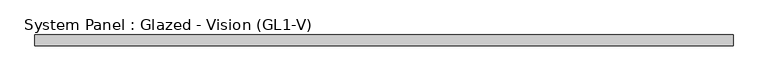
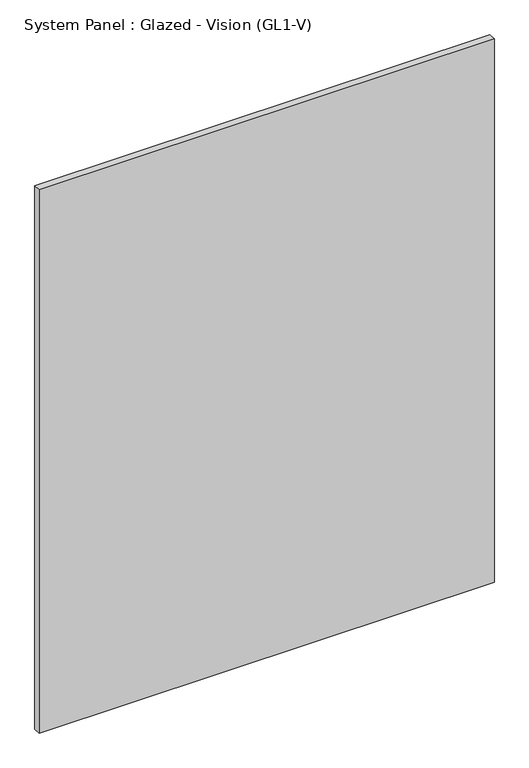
"""IFC4 building model written with IfcOpenShell, lengths in millimetres: plate geometry, System Panel : Glazed - Vision (GL1-V)."""

from ifc_helpers import new_model, si_unit, origin, origin_with_axes, place, context, project, spatial, polyline, outline, extrude, source, transform, mapped, element, save


def system_panel_glazed_vision_gl1_v_478584b3(model_context):
    return source(origin(), model_context, "Body", "SweptSolid", [
        extrude(outline(polyline([(815.975, -25.4), (-815.975, -25.4), (-815.975, 0.0), (815.975, 0.0), (815.975, -25.4)])), origin_with_axes(), (0.0, 0.0, 1.0), 2057.4),
    ])


if __name__ == "__main__":
    model = new_model("IFC4")
    model_context = context("Model", 3, world=origin())
    ifc_project = project(units=[si_unit("LENGTHUNIT", "METRE", prefix="MILLI")], contexts=[model_context])
    site = spatial("IfcSite", under=ifc_project)
    building = spatial("IfcBuilding", under=site)
    placement = place(None, origin())
    system_panel_glazed_vision_gl1_v_shape = system_panel_glazed_vision_gl1_v_478584b3(model_context)
    element("IfcPlate", 1, ObjectType="System Panel : Glazed - Vision (GL1-V)", at=placement, inside=building, context=model_context, shape_type="MappedRepresentation", body=[
        mapped(system_panel_glazed_vision_gl1_v_shape, transform((0.0, 0.0, 0.0), x_axis=(1.0, 0.0, 0.0), y_axis=(0.0, 1.0, 0.0), z_axis=(0.0, 0.0, 1.0))),
    ])
    save(model, "model.ifc")
